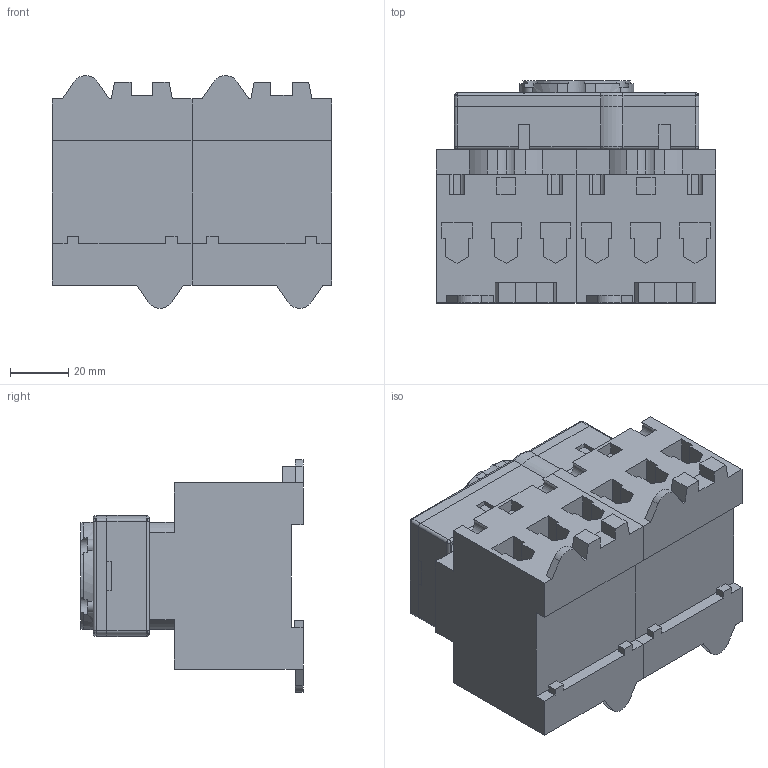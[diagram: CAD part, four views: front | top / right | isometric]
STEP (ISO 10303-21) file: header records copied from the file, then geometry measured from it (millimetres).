
FILE_DESCRIPTION (( 'STEP AP203' ), '1' );
FILE_NAME ('LTS63_80 VZV A6_ Unterteil.STEP', '2014-04-28T06:47:12', ( 'edv' ), ( '' ), 'SwSTEP 2.0', 'SolidWorks 2014', '' );
FILE_SCHEMA (( 'CONFIG_CONTROL_DESIGN' ));
Length unit declared in the file: millimetre
Products named in the file (6): Zwischenring; LTS63_80 VZV A6_ Unterteil; LTS63 VZV A3_Schaltkörper_ohne zwischenring; 8260; 8261; LT Rastwerk A6_8
Assembly tree (6 placements, depth 3):
  LTS63_80 VZV A6_ Unterteil
    LTS63 VZV A3_Schaltkörper_ohne zwischenring  x2
    LT Rastwerk A6_8
      8260
      8261
    Zwischenring
Bounding box: 96 x 76.4 x 80 mm (x, y, z)
Volume: 279026.9 mm3; surface area: 81719.6 mm2
Topology: 5 solids, 5 shells, 1123 faces, 3019 edges, 1948 vertices
Faces by surface type: plane 580, cylinder 379, cone 116, bspline 48
Entity records: 31545 total; most frequent: CARTESIAN_POINT 6411, DIRECTION 5221, ORIENTED_EDGE 5126, EDGE_CURVE 2563, AXIS2_PLACEMENT_3D 1835, VERTEX_POINT 1652, VECTOR 1551, LINE 1551
